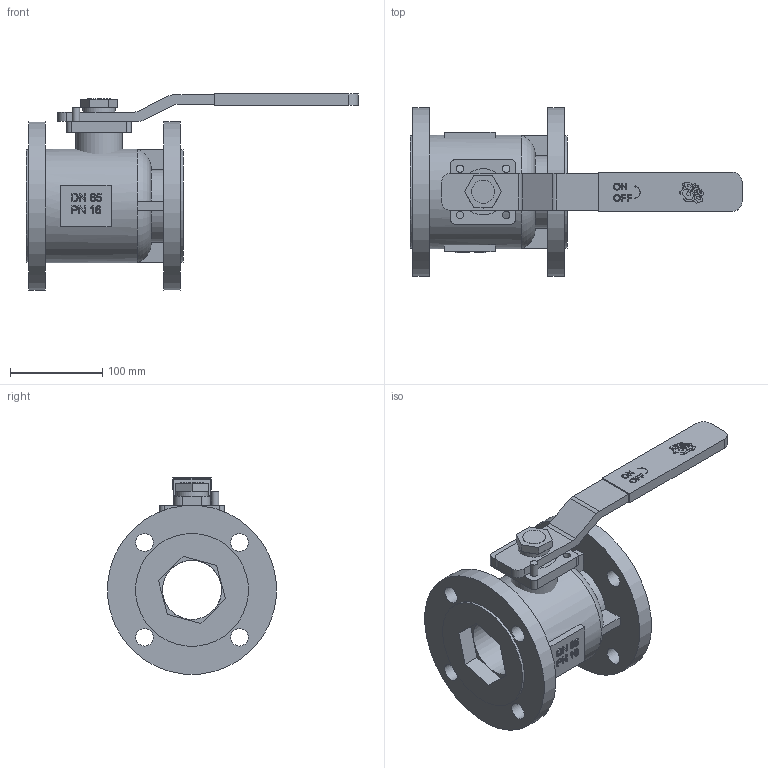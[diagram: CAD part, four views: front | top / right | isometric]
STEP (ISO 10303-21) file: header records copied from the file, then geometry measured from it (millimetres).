
FILE_DESCRIPTION(('STEP AP203'), '1');
FILE_NAME('3D_707-065-16_2', '', ('UNSPECIFIED'), ('UNSPECIFIED'), 'C3D Converter', 'C3D Toolkit', '');
FILE_SCHEMA(('CONFIG_CONTROL_DESIGN'));
Length unit declared in the file: millimetre
Bounding box: 359 x 182.3 x 212.35 mm (x, y, z)
Volume: 2152010.5 mm3; surface area: 267426.7 mm2
Topology: 31 solids, 31 shells, 2517 faces, 7343 edges, 4895 vertices
Faces by surface type: plane 2473, cylinder 40, torus 4
Full cylindrical faces by diameter (mm): 8 x5, 19 x8, 25 x1, 35 x1, 50 x1, 64 x1, 122 x2, 123 x1, 183 x2
Entity records: 102491 total; most frequent: CARTESIAN_POINT 15324, ORIENTED_EDGE 14642, DIRECTION 12456, EDGE_CURVE 7321, LINE 7206, VECTOR 7206, VERTEX_POINT 4895, AXIS2_PLACEMENT_3D 2625
